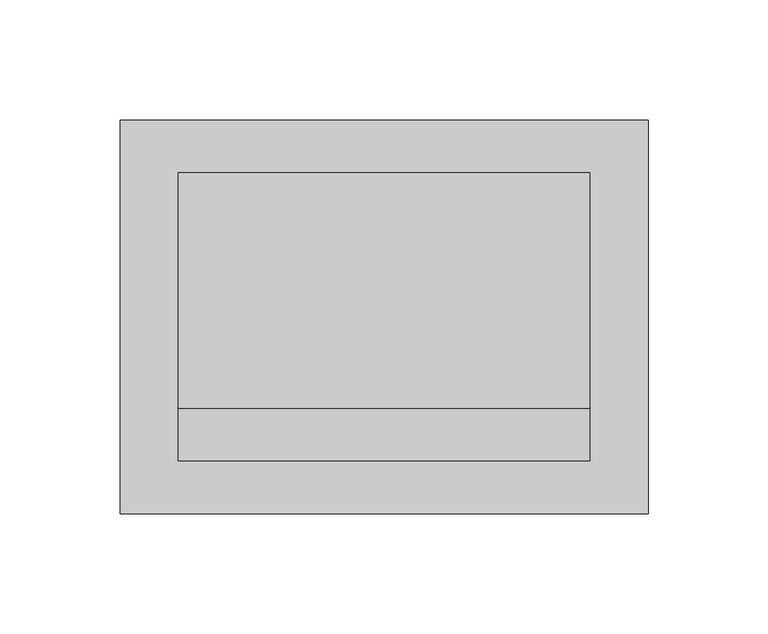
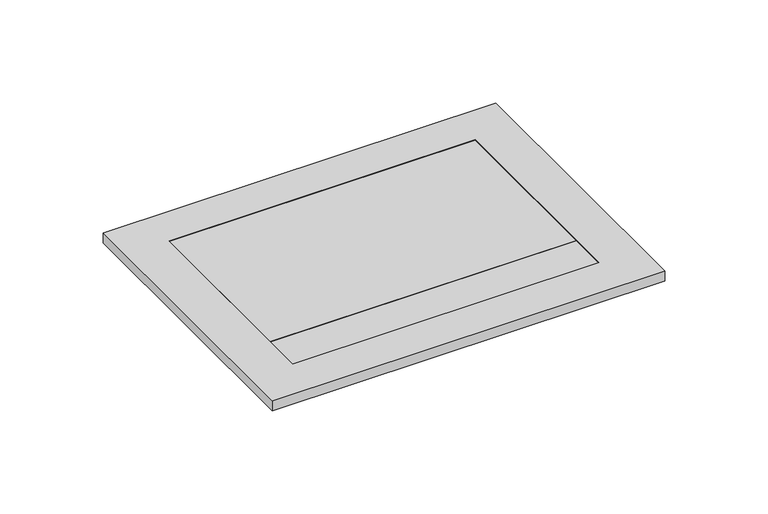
"""IFC4 building model written with IfcOpenShell, lengths in millimetres: proxy geometry, ZYR_05.02.05 PT 4COL Terra : 07 PT Terra (4SC-2SAI-2VD)."""

import ifcopenshell
import ifcopenshell.guid

model = None  # the IFC model being written
_history = None  # IfcOwnerHistory: only IFC2X3 demands one
_inside = {}  # id of a spatial element -> (the spatial element, [elements in it])
_under = {}  # id of a project, library or spatial element -> (it, [spatial elements below it])
_declared = {}  # id of a project -> (the project, [libraries it declares])
_typed = {}  # id of a type object -> (the type object, [elements of that type])
_made_of = {}  # id of a material, layer set ... -> (it, [elements and type objects made of it])


def new_model(schema):
    """Start an empty IFC model of exactly this schema.

    Asked for "IFC4X3", IfcOpenShell would pick the latest addendum, in which some entities
    have other attributes; the version numbers below select the first issue.
    IFC2X3 requires an IfcOwnerHistory on every rooted entity: one is made here for all.
    """
    global model, _history
    if schema == "IFC4X3":
        model = ifcopenshell.file(schema_version=(4, 3, 0, 0))
    else:
        model = ifcopenshell.file(schema=schema)
    _inside.clear()
    _under.clear()
    _declared.clear()
    _typed.clear()
    _made_of.clear()
    _history = None
    if model.schema == "IFC2X3":
        org = make("IfcOrganization", Name="unknown")
        user = make(
            "IfcPersonAndOrganization",
            ThePerson=make("IfcPerson", FamilyName="unknown"),
            TheOrganization=org,
        )
        app = make(
            "IfcApplication",
            ApplicationDeveloper=org,
            Version="unknown",
            ApplicationFullName="unknown",
            ApplicationIdentifier="unknown",
        )
        _history = make(
            "IfcOwnerHistory",
            OwningUser=user,
            OwningApplication=app,
            ChangeAction="ADDED",
            CreationDate=0,
        )
    return model


def make(cls, **values):
    """One entity of the class cls with the attributes given. An attribute that is None is left unset."""
    return model.create_entity(
        cls, **{name: value for name, value in values.items() if value is not None}
    )


def rooted(cls, **values):
    """An entity with a GlobalId (a new one), such as an element, a storey or a relation."""
    return make(cls, GlobalId=ifcopenshell.guid.new(), OwnerHistory=_history, **values)


def si_unit(unit_type, name, prefix=None):
    """IfcSIUnit, for example si_unit("LENGTHUNIT", "METRE", prefix="MILLI")."""
    return make("IfcSIUnit", UnitType=unit_type, Prefix=prefix, Name=name)


def assignment(units):
    """IfcUnitAssignment: the units of a project."""
    return None if units is None else make("IfcUnitAssignment", Units=units)


def point(xyz):
    """IfcCartesianPoint."""
    return None if xyz is None else make("IfcCartesianPoint", Coordinates=xyz)


def direction(xyz):
    """IfcDirection."""
    return None if xyz is None else make("IfcDirection", DirectionRatios=xyz)


def frame(location, z_axis=None, x_axis=None):
    """IfcAxis2Placement3D, a coordinate frame: its origin and axes. An axis left out is left unset."""
    return make(
        "IfcAxis2Placement3D",
        Location=point(location),
        Axis=direction(z_axis),
        RefDirection=direction(x_axis),
    )


def origin():
    """The frame at (0, 0, 0) with its axes left unset."""
    return frame((0.0, 0.0, 0.0))


def origin_with_axes():
    """The frame at (0, 0, 0) with the z axis (0, 0, 1) and the x axis (1, 0, 0) written out."""
    return frame((0.0, 0.0, 0.0), z_axis=(0.0, 0.0, 1.0), x_axis=(1.0, 0.0, 0.0))


def place(relative_to, where):
    """IfcLocalPlacement: puts the frame where relative to a parent placement (None: the world)."""
    return make(
        "IfcLocalPlacement", PlacementRelTo=relative_to, RelativePlacement=where
    )


def context(
    kind, dimensions, precision=None, world=None, true_north=None, identifier=None
):
    """IfcGeometricRepresentationContext, for example the 3D "Model" context."""
    return make(
        "IfcGeometricRepresentationContext",
        ContextIdentifier=identifier,
        ContextType=kind,
        CoordinateSpaceDimension=dimensions,
        Precision=precision,
        WorldCoordinateSystem=world,
        TrueNorth=true_north,
    )


def project(units=None, contexts=None):
    """IfcProject with its units and contexts."""
    return rooted(
        "IfcProject",
        Name="project",
        RepresentationContexts=contexts,
        UnitsInContext=assignment(units),
    )


def spatial(cls, under=None, at=None, **own):
    """A site, building, storey or space (cls), placed at a placement, below another one or the project."""
    s = rooted(cls, ObjectPlacement=at, **own)
    if under is not None:
        _under.setdefault(under.id(), (under, []))[1].append(s)
    return s


def polyline(points):
    """IfcPolyline through the points."""
    return make("IfcPolyline", Points=[point(p) for p in points])


def outline(outer, holes=None, kind="AREA"):
    """IfcArbitraryClosedProfileDef: a profile drawn as a closed curve; with holes, ...WithVoids."""
    if holes is None:
        return make("IfcArbitraryClosedProfileDef", ProfileType=kind, OuterCurve=outer)
    return make(
        "IfcArbitraryProfileDefWithVoids",
        ProfileType=kind,
        OuterCurve=outer,
        InnerCurves=holes,
    )


def extrude(swept, where, along, depth):
    """IfcExtrudedAreaSolid: the profile swept, set in the frame where, extruded along a direction by depth."""
    return make(
        "IfcExtrudedAreaSolid",
        SweptArea=swept,
        Position=where,
        ExtrudedDirection=direction(along),
        Depth=depth,
    )


def shape(context_of_items, identifier, shape_type, items):
    """IfcShapeRepresentation: the items that make up one representation, for example the "Body"."""
    return make(
        "IfcShapeRepresentation",
        ContextOfItems=context_of_items,
        RepresentationIdentifier=identifier,
        RepresentationType=shape_type,
        Items=items,
    )


def source(mapping_origin, context_of_items, identifier, shape_type, items):
    """IfcRepresentationMap: a shape defined once, which mapped items show again and again."""
    return make(
        "IfcRepresentationMap",
        MappingOrigin=mapping_origin,
        MappedRepresentation=shape(context_of_items, identifier, shape_type, items),
    )


def transform(
    local_origin,
    x_axis=None,
    y_axis=None,
    z_axis=None,
    scale=None,
    scale2=None,
    scale3=None,
    uniform=True,
):
    """IfcCartesianTransformationOperator3D, or its non-uniform kind. x_axis, y_axis, z_axis: its Axis1, 2, 3."""
    if uniform:
        return make(
            "IfcCartesianTransformationOperator3D",
            Axis1=direction(x_axis),
            Axis2=direction(y_axis),
            LocalOrigin=point(local_origin),
            Scale=scale,
            Axis3=direction(z_axis),
        )
    return make(
        "IfcCartesianTransformationOperator3DnonUniform",
        Axis1=direction(x_axis),
        Axis2=direction(y_axis),
        LocalOrigin=point(local_origin),
        Scale=scale,
        Axis3=direction(z_axis),
        Scale2=scale2,
        Scale3=scale3,
    )


def mapped(mapping_source, mapping_target):
    """IfcMappedItem: shows the shape of a source again, moved by a transform."""
    return make(
        "IfcMappedItem", MappingSource=mapping_source, MappingTarget=mapping_target
    )


def made_of(thing, what):
    """Note that an element or type object is made of a material, layer set ...; save() writes the relation."""
    if what is not None:
        _made_of.setdefault(what.id(), (what, []))[1].append(thing)
    return thing


def element(
    cls,
    number,
    at=None,
    inside=None,
    cuts=None,
    type_object=None,
    material=None,
    context=None,
    identifier="Body",
    shape_type=None,
    held_by="IfcProductDefinitionShape",
    body=None,
    shapes=None,
    **own,
):
    """One element of the class cls, such as IfcWall. Its Tag is "e" and its number.

    at: its placement. inside: the storey or other place that contains it. cuts: it is an
    opening in that element (IfcRelVoidsElement). A single representation is given by context,
    identifier, shape_type and body (its items); several are given by shapes. held_by: the class
    of the entity that holds the representations. save() writes the other relations.
    """
    e = rooted(cls, Tag="e%d" % number, ObjectPlacement=at, **own)
    if body is not None:
        shapes = [shape(context, identifier, shape_type, body)]
    if shapes is not None:
        e.Representation = make(held_by, Representations=shapes)
    if inside is not None:
        _inside.setdefault(inside.id(), (inside, []))[1].append(e)
    if cuts is not None:
        rooted(
            "IfcRelVoidsElement", RelatingBuildingElement=cuts, RelatedOpeningElement=e
        )
    if type_object is not None:
        _typed.setdefault(type_object.id(), (type_object, []))[1].append(e)
    return made_of(e, material)


def aggregate(whole, parts):
    """IfcRelAggregates: a whole, such as a stair, and the parts it consists of."""
    return rooted("IfcRelAggregates", RelatingObject=whole, RelatedObjects=parts)


def save(model, path):
    """Write the relations noted so far, then the file.

    IfcRelAggregates (storeys below a building ...), IfcRelContainedInSpatialStructure (elements
    in a storey), IfcRelDefinesByType, IfcRelAssociatesMaterial and IfcRelDeclares: one each for
    every whole, place, type object, material and project.
    """
    for whole, parts in _under.values():
        aggregate(whole, parts)
    for where, things in _inside.values():
        rooted(
            "IfcRelContainedInSpatialStructure",
            RelatedElements=things,
            RelatingStructure=where,
        )
    for kind, things in _typed.values():
        rooted("IfcRelDefinesByType", RelatedObjects=things, RelatingType=kind)
    for what, things in _made_of.values():
        rooted("IfcRelAssociatesMaterial", RelatedObjects=things, RelatingMaterial=what)
    for by, libraries in _declared.values():
        rooted("IfcRelDeclares", RelatingContext=by, RelatedDefinitions=libraries)
    model.write(path)


def electrical_fixtures_183ee5f1(model_context):
    return source(origin(), model_context, "Body", "SweptSolid", [
        extrude(outline(polyline([(110.0, 82.0), (110.0, -82.0), (-110.0, -82.0), (-110.0, 82.0), (110.0, 82.0)]), holes=[polyline([(85.6637168, 60.0748663), (-85.6637168, 60.0748663), (-85.6637168, -60.0748663), (85.6637168, -60.0748663), (85.6637168, 60.0748663)])]), origin_with_axes(), (0.0, 0.0, 1.0), 6.0),
        extrude(outline(polyline([(85.6637168, 60.0748663), (85.6637168, -38.1497326), (-85.6637168, -38.1497326), (-85.6637168, 60.0748663), (85.6637168, 60.0748663)])), origin_with_axes(), (0.0, 0.0, 1.0), 6.0),
        extrude(outline(polyline([(85.6637168, -38.1497326), (85.6637168, -60.0748663), (-85.6637168, -60.0748663), (-85.6637168, -38.1497326), (85.6637168, -38.1497326)])), origin_with_axes(), (0.0, 0.0, 1.0), 6.0),
        extrude(outline(polyline([(24.3362832, -38.1497326), (24.3362832, -51.3047865), (-24.3362832, -51.3047865), (-24.3362832, -38.1497326), (24.3362832, -38.1497326)])), origin_with_axes(), (0.0, 0.0, 1.0), 6.0),
    ])


if __name__ == "__main__":
    model = new_model("IFC4")
    model_context = context("Model", 3, world=origin())
    ifc_project = project(units=[si_unit("LENGTHUNIT", "METRE", prefix="MILLI")], contexts=[model_context])
    site = spatial("IfcSite", under=ifc_project)
    building = spatial("IfcBuilding", under=site)
    placement = place(None, origin())
    electrical_fixtures_shape = electrical_fixtures_183ee5f1(model_context)
    element("IfcBuildingElementProxy", 1, Name="ZYR_05.02.05 PT 4COL Terra : 07 PT Terra (4SC-2SAI-2VD)", ObjectType="ZYR_05.02.05 PT 4COL Terra : 07 PT Terra (4SC-2SAI-2VD)", at=placement, inside=building, context=model_context, shape_type="MappedRepresentation", body=[
        mapped(electrical_fixtures_shape, transform((0.0, 0.0, 0.0), x_axis=(1.0, 0.0, 0.0), y_axis=(0.0, 1.0, 0.0), z_axis=(0.0, 0.0, 1.0))),
    ])
    save(model, "model.ifc")
